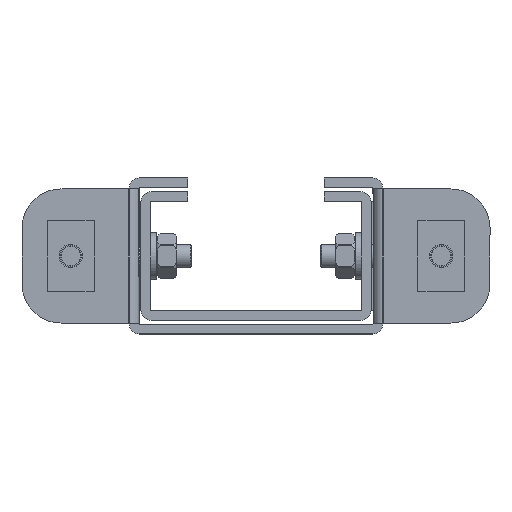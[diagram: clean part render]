
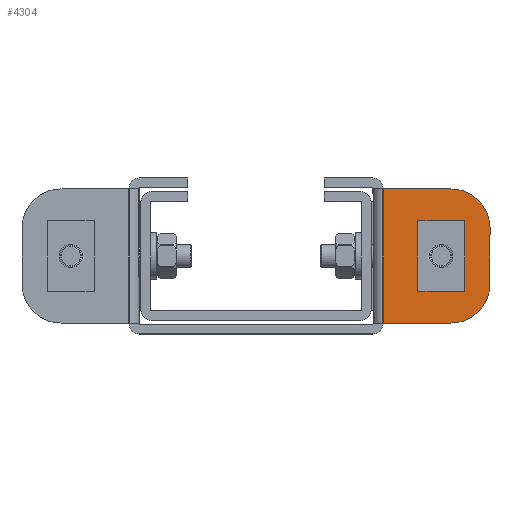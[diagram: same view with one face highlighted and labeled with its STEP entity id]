
A CAD part, left-side view. The second image highlights one B-rep face of the part: STEP entity #4304.
In plain terms, the highlighted planar face has unit normal (-1, 0, 0).
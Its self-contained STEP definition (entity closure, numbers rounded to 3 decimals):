
#243=PLANE('',#4797);
#370=LINE('',#6543,#736);
#375=LINE('',#6552,#741);
#376=LINE('',#6554,#742);
#377=LINE('',#6556,#743);
#736=VECTOR('',#5275,1000.);
#741=VECTOR('',#5284,1000.);
#742=VECTOR('',#5285,1000.);
#743=VECTOR('',#5286,1000.);
#1125=ORIENTED_EDGE('',*,*,#2343,.T.);
#1126=ORIENTED_EDGE('',*,*,#2322,.T.);
#1127=ORIENTED_EDGE('',*,*,#2338,.T.);
#1128=ORIENTED_EDGE('',*,*,#2318,.T.);
#1129=ORIENTED_EDGE('',*,*,#2344,.T.);
#1130=ORIENTED_EDGE('',*,*,#2345,.F.);
#1131=ORIENTED_EDGE('',*,*,#2336,.F.);
#2318=EDGE_CURVE('',#2930,#2931,#3350,.T.);
#2322=EDGE_CURVE('',#2934,#2935,#3352,.T.);
#2336=EDGE_CURVE('',#2948,#2948,#3360,.T.);
#2338=EDGE_CURVE('',#2935,#2930,#370,.T.);
#2343=EDGE_CURVE('',#2952,#2934,#375,.T.);
#2344=EDGE_CURVE('',#2931,#2953,#376,.T.);
#2345=EDGE_CURVE('',#2952,#2953,#377,.T.);
#2930=VERTEX_POINT('',#6498);
#2931=VERTEX_POINT('',#6499);
#2934=VERTEX_POINT('',#6507);
#2935=VERTEX_POINT('',#6508);
#2948=VERTEX_POINT('',#6539);
#2952=VERTEX_POINT('',#6553);
#2953=VERTEX_POINT('',#6555);
#3350=CIRCLE('',#4778,10.);
#3352=CIRCLE('',#4781,10.);
#3360=CIRCLE('',#4793,4.25);
#3539=EDGE_LOOP('',(#1125,#1126,#1127,#1128,#1129,#1130));
#3540=EDGE_LOOP('',(#1131));
#3875=FACE_BOUND('',#3539,.T.);
#3876=FACE_BOUND('',#3540,.T.);
#4304=ADVANCED_FACE('',(#3875,#3876),#243,.F.);
#4778=AXIS2_PLACEMENT_3D('',#6497,#5231,#5232);
#4781=AXIS2_PLACEMENT_3D('',#6506,#5239,#5240);
#4793=AXIS2_PLACEMENT_3D('',#6538,#5269,#5270);
#4797=AXIS2_PLACEMENT_3D('',#6551,#5282,#5283);
#5231=DIRECTION('',(-1.,0.,0.));
#5232=DIRECTION('',(0.,1.,0.));
#5239=DIRECTION('',(-1.,0.,0.));
#5240=DIRECTION('',(0.,1.,0.));
#5269=DIRECTION('',(-1.,0.,0.));
#5270=DIRECTION('',(0.,1.,0.));
#5275=DIRECTION('',(0.,0.,1.));
#5282=DIRECTION('',(1.,0.,0.));
#5283=DIRECTION('',(0.,1.,0.));
#5284=DIRECTION('',(0.,-1.,0.));
#5285=DIRECTION('',(0.,1.,0.));
#5286=DIRECTION('',(0.,0.,1.));
#6497=CARTESIAN_POINT('',(-2.8,-50.,24.7));
#6498=CARTESIAN_POINT('',(-2.8,-60.,24.7));
#6499=CARTESIAN_POINT('',(-2.8,-50.,34.7));
#6506=CARTESIAN_POINT('',(-2.8,-50.,10.3));
#6507=CARTESIAN_POINT('',(-2.8,-50.,0.3));
#6508=CARTESIAN_POINT('',(-2.8,-60.,10.3));
#6538=CARTESIAN_POINT('',(-2.8,-47.5,17.5));
#6539=CARTESIAN_POINT('',(-2.8,-43.25,17.5));
#6543=CARTESIAN_POINT('',(-2.8,-60.,0.));
#6551=CARTESIAN_POINT('',(-2.8,0.,0.));
#6552=CARTESIAN_POINT('',(-2.8,0.,0.3));
#6553=CARTESIAN_POINT('',(-2.8,-32.6,0.3));
#6554=CARTESIAN_POINT('',(-2.8,0.,34.7));
#6555=CARTESIAN_POINT('',(-2.8,-32.6,34.7));
#6556=CARTESIAN_POINT('',(-2.8,-32.6,0.3));
